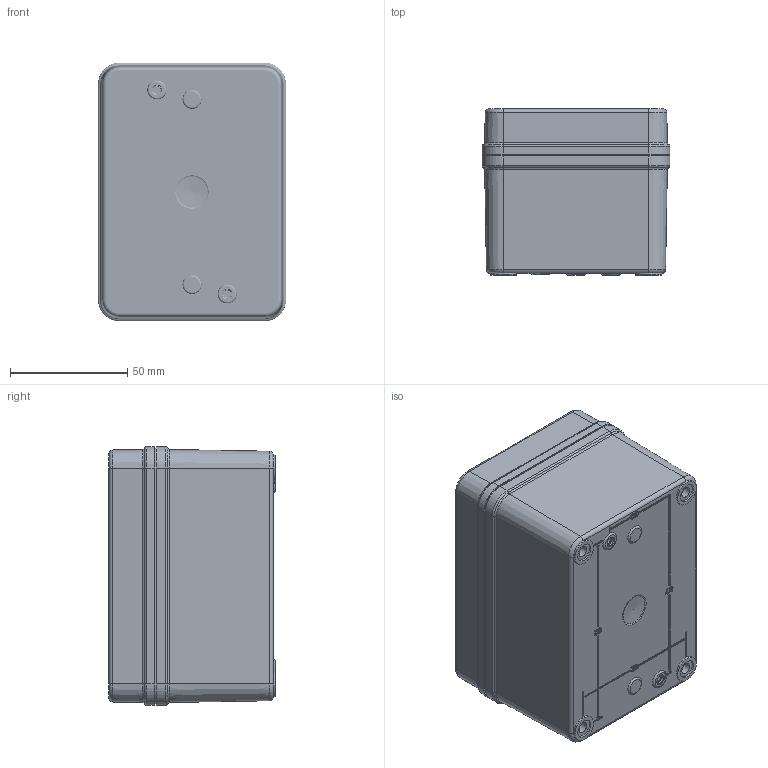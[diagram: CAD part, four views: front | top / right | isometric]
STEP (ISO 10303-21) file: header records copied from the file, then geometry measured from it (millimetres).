
FILE_DESCRIPTION(/* description */ (''),/* implementation_level */ '2;1');
FILE_NAME(/* name */ 'C:\Users\aalomero\Desktop\Saginaw\FECFPC1PB.stp',/* time_stamp */ '2019-12-27T11:49:39-05:00',/* author */ ('aalomero'),/* organization */ (''),/* preprocessor_version */ 'ST-DEVELOPER v16.13',/* originating_system */ 'Autodesk Inventor 2018',/* authorisation */ '');
FILE_SCHEMA (('AUTOMOTIVE_DESIGN { 1 0 10303 214 3 1 1 }'));
Products named in the file (6): ATCOPC1PB; WPCOPC432BOX; WPCOPC1PBU; WPCOPC1PBCVR; RMGAS_WPCOPC432CVR; custom screw
Assembly tree (8 placements, depth 3):
  ATCOPC1PB
    WPCOPC432BOX
    WPCOPC1PBU
      WPCOPC1PBCVR
      RMGAS_WPCOPC432CVR
    custom screw  x4
Bounding box: 80.14 x 70.79 x 110.13 mm (x, y, z)
Volume: 165962.4 mm3; surface area: 101567.4 mm2
Topology: 7 solids, 7 shells, 1893 faces, 4871 edges, 3049 vertices
Faces by surface type: plane 825, cylinder 516, bspline 340, torus 145, cone 52, sphere 15
Full cylindrical faces by diameter (mm): 2.54 x12, 3.2 x4, 4 x4, 4.762 x4, 7 x4, 7.925 x4, 8.509 x92, 10.998 x4, 11.176 x4, 11.684 x4, 11.811 x4
Entity records: 79235 total; most frequent: CARTESIAN_POINT 47235, ORIENTED_EDGE 6698, DIRECTION 6265, EDGE_CURVE 3349, LINE 2211, VECTOR 2211, VERTEX_POINT 2150, AXIS2_PLACEMENT_3D 2027
